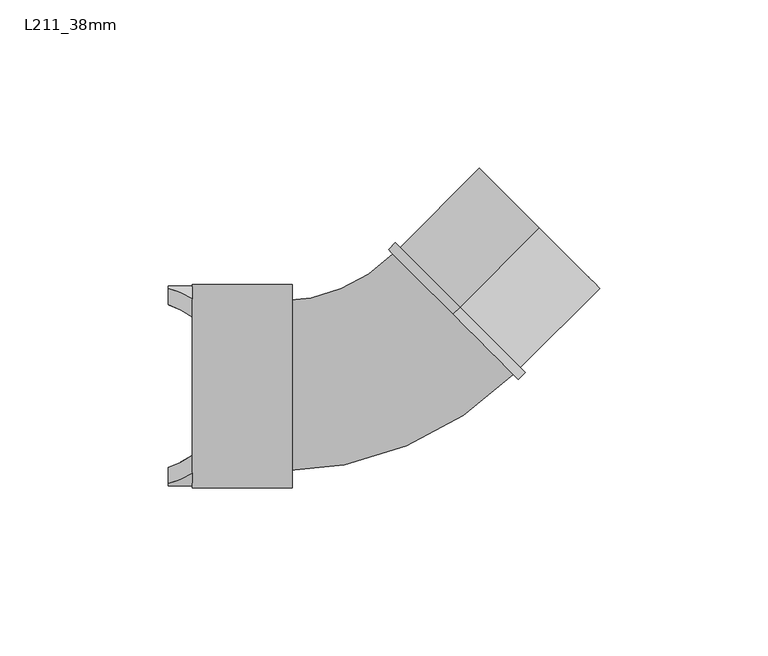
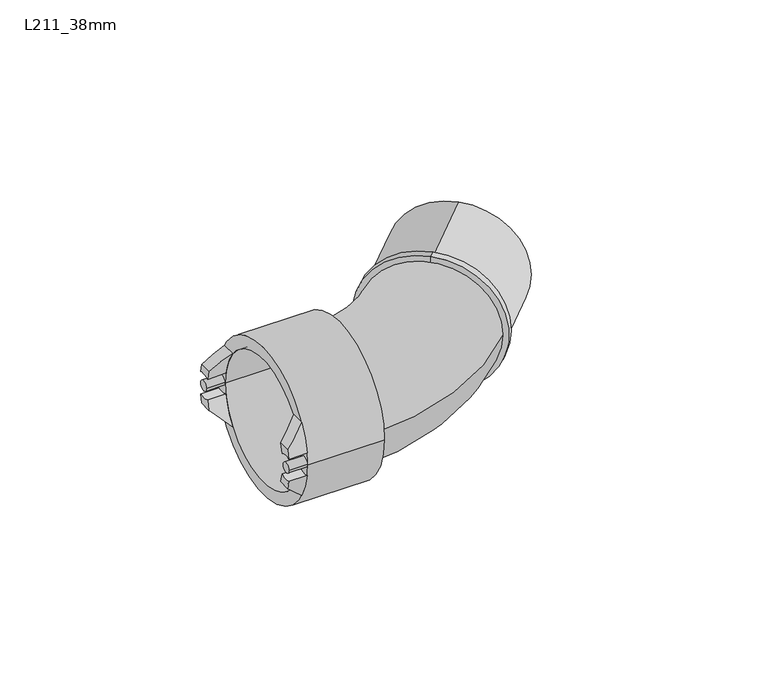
"""IFC4 building model written with IfcOpenShell, lengths in millimetres: pipe fitting geometry, Durapipe_PipeFitting_VulcatheneEnfusion_SingleSocketSlowBend_L21 : L211_38mm."""

import ifcopenshell
import ifcopenshell.guid

model = None  # the IFC model being written
_history = None  # IfcOwnerHistory: only IFC2X3 demands one
_inside = {}  # id of a spatial element -> (the spatial element, [elements in it])
_under = {}  # id of a project, library or spatial element -> (it, [spatial elements below it])
_declared = {}  # id of a project -> (the project, [libraries it declares])
_typed = {}  # id of a type object -> (the type object, [elements of that type])
_made_of = {}  # id of a material, layer set ... -> (it, [elements and type objects made of it])


def new_model(schema):
    """Start an empty IFC model of exactly this schema.

    Asked for "IFC4X3", IfcOpenShell would pick the latest addendum, in which some entities
    have other attributes; the version numbers below select the first issue.
    IFC2X3 requires an IfcOwnerHistory on every rooted entity: one is made here for all.
    """
    global model, _history
    if schema == "IFC4X3":
        model = ifcopenshell.file(schema_version=(4, 3, 0, 0))
    else:
        model = ifcopenshell.file(schema=schema)
    _inside.clear()
    _under.clear()
    _declared.clear()
    _typed.clear()
    _made_of.clear()
    _history = None
    if model.schema == "IFC2X3":
        org = make("IfcOrganization", Name="unknown")
        user = make(
            "IfcPersonAndOrganization",
            ThePerson=make("IfcPerson", FamilyName="unknown"),
            TheOrganization=org,
        )
        app = make(
            "IfcApplication",
            ApplicationDeveloper=org,
            Version="unknown",
            ApplicationFullName="unknown",
            ApplicationIdentifier="unknown",
        )
        _history = make(
            "IfcOwnerHistory",
            OwningUser=user,
            OwningApplication=app,
            ChangeAction="ADDED",
            CreationDate=0,
        )
    return model


def make(cls, **values):
    """One entity of the class cls with the attributes given. An attribute that is None is left unset."""
    return model.create_entity(
        cls, **{name: value for name, value in values.items() if value is not None}
    )


def rooted(cls, **values):
    """An entity with a GlobalId (a new one), such as an element, a storey or a relation."""
    return make(cls, GlobalId=ifcopenshell.guid.new(), OwnerHistory=_history, **values)


def si_unit(unit_type, name, prefix=None):
    """IfcSIUnit, for example si_unit("LENGTHUNIT", "METRE", prefix="MILLI")."""
    return make("IfcSIUnit", UnitType=unit_type, Prefix=prefix, Name=name)


def assignment(units):
    """IfcUnitAssignment: the units of a project."""
    return None if units is None else make("IfcUnitAssignment", Units=units)


def point(xyz):
    """IfcCartesianPoint."""
    return None if xyz is None else make("IfcCartesianPoint", Coordinates=xyz)


def direction(xyz):
    """IfcDirection."""
    return None if xyz is None else make("IfcDirection", DirectionRatios=xyz)


def frame(location, z_axis=None, x_axis=None):
    """IfcAxis2Placement3D, a coordinate frame: its origin and axes. An axis left out is left unset."""
    return make(
        "IfcAxis2Placement3D",
        Location=point(location),
        Axis=direction(z_axis),
        RefDirection=direction(x_axis),
    )


def frame_2d(location, x_axis=None):
    """IfcAxis2Placement2D, a coordinate frame in the plane: its origin and x axis."""
    return make(
        "IfcAxis2Placement2D", Location=point(location), RefDirection=direction(x_axis)
    )


def origin():
    """The frame at (0, 0, 0) with its axes left unset."""
    return frame((0.0, 0.0, 0.0))


def place(relative_to, where):
    """IfcLocalPlacement: puts the frame where relative to a parent placement (None: the world)."""
    return make(
        "IfcLocalPlacement", PlacementRelTo=relative_to, RelativePlacement=where
    )


def context(
    kind, dimensions, precision=None, world=None, true_north=None, identifier=None
):
    """IfcGeometricRepresentationContext, for example the 3D "Model" context."""
    return make(
        "IfcGeometricRepresentationContext",
        ContextIdentifier=identifier,
        ContextType=kind,
        CoordinateSpaceDimension=dimensions,
        Precision=precision,
        WorldCoordinateSystem=world,
        TrueNorth=true_north,
    )


def project(units=None, contexts=None):
    """IfcProject with its units and contexts."""
    return rooted(
        "IfcProject",
        Name="project",
        RepresentationContexts=contexts,
        UnitsInContext=assignment(units),
    )


def spatial(cls, under=None, at=None, **own):
    """A site, building, storey or space (cls), placed at a placement, below another one or the project."""
    s = rooted(cls, ObjectPlacement=at, **own)
    if under is not None:
        _under.setdefault(under.id(), (under, []))[1].append(s)
    return s


def polyline(points):
    """IfcPolyline through the points."""
    return make("IfcPolyline", Points=[point(p) for p in points])


def circle_curve(where, radius):
    """IfcCircle in the frame where."""
    return make("IfcCircle", Position=where, Radius=radius)


def ellipse_curve(where, semi_axis1, semi_axis2):
    """IfcEllipse in the frame where."""
    return make(
        "IfcEllipse", Position=where, SemiAxis1=semi_axis1, SemiAxis2=semi_axis2
    )


def trimmed(basis, trim1, trim2, sense, master):
    """IfcTrimmedCurve: the piece of a basis curve between two trims."""
    return make(
        "IfcTrimmedCurve",
        BasisCurve=basis,
        Trim1=trim1,
        Trim2=trim2,
        SenseAgreement=sense,
        MasterRepresentation=master,
    )


def segment(curve, same_sense, transition):
    """IfcCompositeCurveSegment."""
    return make(
        "IfcCompositeCurveSegment",
        Transition=transition,
        SameSense=same_sense,
        ParentCurve=curve,
    )


def composite_curve(segments, self_intersect=None):
    """IfcCompositeCurve: segments joined end to end."""
    return make("IfcCompositeCurve", Segments=segments, SelfIntersect=self_intersect)


def outline(outer, holes=None, kind="AREA"):
    """IfcArbitraryClosedProfileDef: a profile drawn as a closed curve; with holes, ...WithVoids."""
    if holes is None:
        return make("IfcArbitraryClosedProfileDef", ProfileType=kind, OuterCurve=outer)
    return make(
        "IfcArbitraryProfileDefWithVoids",
        ProfileType=kind,
        OuterCurve=outer,
        InnerCurves=holes,
    )


def extrude(swept, where, along, depth):
    """IfcExtrudedAreaSolid: the profile swept, set in the frame where, extruded along a direction by depth."""
    return make(
        "IfcExtrudedAreaSolid",
        SweptArea=swept,
        Position=where,
        ExtrudedDirection=direction(along),
        Depth=depth,
    )


def shape(context_of_items, identifier, shape_type, items):
    """IfcShapeRepresentation: the items that make up one representation, for example the "Body"."""
    return make(
        "IfcShapeRepresentation",
        ContextOfItems=context_of_items,
        RepresentationIdentifier=identifier,
        RepresentationType=shape_type,
        Items=items,
    )


def source(mapping_origin, context_of_items, identifier, shape_type, items):
    """IfcRepresentationMap: a shape defined once, which mapped items show again and again."""
    return make(
        "IfcRepresentationMap",
        MappingOrigin=mapping_origin,
        MappedRepresentation=shape(context_of_items, identifier, shape_type, items),
    )


def transform(
    local_origin,
    x_axis=None,
    y_axis=None,
    z_axis=None,
    scale=None,
    scale2=None,
    scale3=None,
    uniform=True,
):
    """IfcCartesianTransformationOperator3D, or its non-uniform kind. x_axis, y_axis, z_axis: its Axis1, 2, 3."""
    if uniform:
        return make(
            "IfcCartesianTransformationOperator3D",
            Axis1=direction(x_axis),
            Axis2=direction(y_axis),
            LocalOrigin=point(local_origin),
            Scale=scale,
            Axis3=direction(z_axis),
        )
    return make(
        "IfcCartesianTransformationOperator3DnonUniform",
        Axis1=direction(x_axis),
        Axis2=direction(y_axis),
        LocalOrigin=point(local_origin),
        Scale=scale,
        Axis3=direction(z_axis),
        Scale2=scale2,
        Scale3=scale3,
    )


def mapped(mapping_source, mapping_target):
    """IfcMappedItem: shows the shape of a source again, moved by a transform."""
    return make(
        "IfcMappedItem", MappingSource=mapping_source, MappingTarget=mapping_target
    )


def made_of(thing, what):
    """Note that an element or type object is made of a material, layer set ...; save() writes the relation."""
    if what is not None:
        _made_of.setdefault(what.id(), (what, []))[1].append(thing)
    return thing


def element(
    cls,
    number,
    at=None,
    inside=None,
    cuts=None,
    type_object=None,
    material=None,
    context=None,
    identifier="Body",
    shape_type=None,
    held_by="IfcProductDefinitionShape",
    body=None,
    shapes=None,
    **own,
):
    """One element of the class cls, such as IfcWall. Its Tag is "e" and its number.

    at: its placement. inside: the storey or other place that contains it. cuts: it is an
    opening in that element (IfcRelVoidsElement). A single representation is given by context,
    identifier, shape_type and body (its items); several are given by shapes. held_by: the class
    of the entity that holds the representations. save() writes the other relations.
    """
    e = rooted(cls, Tag="e%d" % number, ObjectPlacement=at, **own)
    if body is not None:
        shapes = [shape(context, identifier, shape_type, body)]
    if shapes is not None:
        e.Representation = make(held_by, Representations=shapes)
    if inside is not None:
        _inside.setdefault(inside.id(), (inside, []))[1].append(e)
    if cuts is not None:
        rooted(
            "IfcRelVoidsElement", RelatingBuildingElement=cuts, RelatedOpeningElement=e
        )
    if type_object is not None:
        _typed.setdefault(type_object.id(), (type_object, []))[1].append(e)
    return made_of(e, material)


def aggregate(whole, parts):
    """IfcRelAggregates: a whole, such as a stair, and the parts it consists of."""
    return rooted("IfcRelAggregates", RelatingObject=whole, RelatedObjects=parts)


def save(model, path):
    """Write the relations noted so far, then the file.

    IfcRelAggregates (storeys below a building ...), IfcRelContainedInSpatialStructure (elements
    in a storey), IfcRelDefinesByType, IfcRelAssociatesMaterial and IfcRelDeclares: one each for
    every whole, place, type object, material and project.
    """
    for whole, parts in _under.values():
        aggregate(whole, parts)
    for where, things in _inside.values():
        rooted(
            "IfcRelContainedInSpatialStructure",
            RelatedElements=things,
            RelatingStructure=where,
        )
    for kind, things in _typed.values():
        rooted("IfcRelDefinesByType", RelatedObjects=things, RelatingType=kind)
    for what, things in _made_of.values():
        rooted("IfcRelAssociatesMaterial", RelatedObjects=things, RelatingMaterial=what)
    for by, libraries in _declared.values():
        rooted("IfcRelDeclares", RelatingContext=by, RelatedDefinitions=libraries)
    model.write(path)


def plane_surface(at):
    """IfcPlane: the flat surface through the origin of the frame at, square to its z axis."""
    return make("IfcPlane", Position=at)


def cylinder_surface(at, radius):
    """IfcCylindricalSurface: all points at the distance radius from the z axis of the frame at."""
    return make("IfcCylindricalSurface", Position=at, Radius=radius)


def revolved_surface(curve, axis_point, axis_direction):
    """IfcSurfaceOfRevolution: the curve turned about the line through axis_point along axis_direction."""
    return make(
        "IfcSurfaceOfRevolution",
        SweptCurve=make("IfcArbitraryOpenProfileDef", ProfileType="CURVE", Curve=curve),
        AxisPosition=make("IfcAxis1Placement", Location=point(axis_point), Axis=direction(axis_direction)),
    )


def advanced_brep(points, edges, surfaces, faces):
    """IfcAdvancedBrep: a solid bounded by faces that lie on surfaces and meet in shared edges.

    An edge is (start, end): straight between two places in points (the first is 0);
    or (start, end, curve); or (start, end, curve, False) where it runs against its curve.
    A face is (place in surfaces, loops), or (place, loops, False) where it looks against
    its surface's normal. A loop lists edges by number (the first is 1), with a minus sign
    where the edge is run from its end to its start. The first loop is the outer one.
    """
    corners = [point(p) for p in points]
    vertices = [make("IfcVertexPoint", VertexGeometry=c) for c in corners]
    made = []
    for start, end, *more in edges:
        made.append(
            make(
                "IfcEdgeCurve",
                EdgeStart=vertices[start],
                EdgeEnd=vertices[end],
                EdgeGeometry=more[0] if more else make("IfcPolyline", Points=[corners[start], corners[end]]),
                SameSense=more[1] if len(more) > 1 else True,
            )
        )
    hull = []
    for where, loops, *sense in faces:
        bounds = []
        for j, loop in enumerate(loops):
            ring = [make("IfcOrientedEdge", EdgeElement=made[abs(k) - 1], Orientation=k > 0) for k in loop]
            bounds.append(
                make(
                    "IfcFaceOuterBound" if j == 0 else "IfcFaceBound",
                    Bound=make("IfcEdgeLoop", EdgeList=ring),
                    Orientation=True,
                )
            )
        hull.append(make("IfcAdvancedFace", Bounds=bounds, FaceSurface=surfaces[where], SameSense=sense[0] if sense else True))
    return make("IfcAdvancedBrep", Outer=make("IfcClosedShell", CfsFaces=hull))


def l211_38mm_e0d01717(model_context):
    return source(origin(), model_context, "Body", "SolidModel", [
        advanced_brep(
        [(-63.2547473, 25.0948649, -4.2367744), (-63.2547473, 29.6948649, -4.6062458), (-63.2547473, 28.9820444, -7.94), (-63.2547473, 24.1797208, -7.94), (-56.1547473, 26.0384811, -15.0), (-56.1547473, 29.6948649, -4.6062458), (-56.1547473, 25.0948649, -4.2367744), (-56.1547473, 20.5597301, -15.0)],
        [
            (0, 1, circle_curve(frame((-63.2547473, 27.75, 0.0), z_axis=(1.0, 0.0, 0.0), x_axis=(0.0, -1.0, 0.0)), 5.0)),
            (1, 2, circle_curve(frame((-63.2547473, 0.0, 0.0), z_axis=(-1.0, 0.0, 0.0), x_axis=(0.0, -1.0, 0.0)), 30.05)),
            (2, 3),
            (3, 0, circle_curve(frame((-63.2547473, 0.0, 0.0), z_axis=(1.0, 0.0, 0.0), x_axis=(0.0, -1.0, 0.0)), 25.45)),
            (4, 5, circle_curve(frame((-56.1547473, 0.0, 0.0), z_axis=(1.0, 0.0, 0.0), x_axis=(0.0, -1.0, 0.0)), 30.05)),
            (5, 6, circle_curve(frame((-56.1547473, 27.75, 0.0), z_axis=(-1.0, 0.0, 0.0), x_axis=(0.0, -1.0, 0.0)), 5.0)),
            (6, 7, circle_curve(frame((-56.1547473, 0.0, 0.0), z_axis=(-1.0, 0.0, 0.0), x_axis=(0.0, -1.0, 0.0)), 25.45)),
            (7, 4),
            (6, 0),
            (3, 7, ellipse_curve(frame((-71.2397332, 0.0, 0.0), z_axis=(-0.705106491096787, 0.0, -0.7091014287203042), x_axis=(0.7091014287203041, 0.0, -0.705106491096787)), 36.0938388, 25.45)),
            (4, 2, ellipse_curve(frame((-71.2397332, 0.0, 0.0), z_axis=(0.705106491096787, 0.0, 0.7091014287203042), x_axis=(-0.7091014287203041, 0.0, 0.705106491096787)), 42.617676, 30.05)),
            (1, 5),
        ],
        [
            plane_surface(frame((-63.2547473, 26.0384811, -15.0), z_axis=(-1.0, 0.0, 0.0), x_axis=(0.0, -1.0, 0.0))),
            plane_surface(frame((-56.1547473, 26.0384811, -15.0), z_axis=(1.0, 0.0, 0.0), x_axis=(0.0, 1.0, 0.0))),
            revolved_surface(polyline([(-45.645540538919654, -25.45, 0.0), (-96.83392586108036, -25.45, 0.0)]), (-56.1547473, 0.0, 0.0), (1.0, 0.0, 0.0)),
            cylinder_surface(frame((-56.1547473, 0.0, 0.0), z_axis=(-1.0, 0.0, 0.0), x_axis=(0.0, -1.0, 0.0)), 30.05),
            revolved_surface(polyline([(-63.2547473, 22.75, 0.0), (-56.1547473, 22.75, 0.0)]), (-56.1547473, 27.75, 0.0), (-1.0, 0.0, 0.0)),
            plane_surface(frame((-56.1547473, -30.05, -15.0), z_axis=(-0.705106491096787, 0.0, -0.7091014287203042), x_axis=(0.0, 1.0, 0.0))),
        ],
        [
            (0, [[1, 2, 3, 4]]),
            (1, [[5, 6, 7, 8]]),
            (2, [[-7, 9, -4, 10]]),
            (3, [[-5, 11, -2, 12]]),
            (4, [[-1, -9, -6, -12]]),
            (5, [[-3, -11, -8, -10]]),
        ],
    ),
        advanced_brep(
        [(-63.2547473, 29.6948649, 4.6062458), (-63.2547473, 25.0948649, 4.2367744), (-63.2547473, 24.1797208, 7.94), (-63.2547473, 28.9820444, 7.94), (-56.1547473, 29.6948649, 4.6062458), (-56.1547473, 26.0384811, 15.0), (-56.1547473, 20.5597301, 15.0), (-56.1547473, 25.0948649, 4.2367744)],
        [
            (0, 1, circle_curve(frame((-63.2547473, 27.75, 0.0), z_axis=(1.0, 0.0, 0.0), x_axis=(0.0, -1.0, 0.0)), 5.0)),
            (1, 2, circle_curve(frame((-63.2547473, 0.0, 0.0), z_axis=(1.0, 0.0, 0.0), x_axis=(0.0, -1.0, 0.0)), 25.45)),
            (2, 3),
            (3, 0, circle_curve(frame((-63.2547473, 0.0, 0.0), z_axis=(-1.0, 0.0, 0.0), x_axis=(0.0, -1.0, 0.0)), 30.05)),
            (4, 5, circle_curve(frame((-56.1547473, 0.0, 0.0), z_axis=(1.0, 0.0, 0.0), x_axis=(0.0, -1.0, 0.0)), 30.05)),
            (5, 6),
            (6, 7, circle_curve(frame((-56.1547473, 0.0, 0.0), z_axis=(-1.0, 0.0, 0.0), x_axis=(0.0, -1.0, 0.0)), 25.45)),
            (7, 4, circle_curve(frame((-56.1547473, 27.75, 0.0), z_axis=(-1.0, 0.0, 0.0), x_axis=(0.0, -1.0, 0.0)), 5.0)),
            (6, 2, ellipse_curve(frame((-71.2397332, 0.0, 0.0), z_axis=(-0.7051064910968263, 0.0, 0.7091014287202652), x_axis=(0.7091014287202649, 0.0, 0.7051064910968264)), 36.0938388, 25.45)),
            (1, 7),
            (4, 0),
            (3, 5, ellipse_curve(frame((-71.2397332, 0.0, 0.0), z_axis=(0.7051064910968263, 0.0, -0.7091014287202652), x_axis=(-0.7091014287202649, 0.0, -0.7051064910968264)), 42.617676, 30.05)),
        ],
        [
            plane_surface(frame((-63.2547473, 26.0384811, -15.0), z_axis=(-1.0, 0.0, 0.0), x_axis=(0.0, -1.0, 0.0))),
            plane_surface(frame((-56.1547473, 26.0384811, -15.0), z_axis=(1.0, 0.0, 0.0), x_axis=(0.0, 1.0, 0.0))),
            revolved_surface(polyline([(-45.64554053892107, -25.45, 0.0), (-96.83392586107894, -25.45, 0.0)]), (-56.1547473, 0.0, 0.0), (1.0, 0.0, 0.0)),
            cylinder_surface(frame((-56.1547473, 0.0, 0.0), z_axis=(-1.0, 0.0, 0.0), x_axis=(0.0, -1.0, 0.0)), 30.05),
            revolved_surface(polyline([(-63.2547473, 22.75, 0.0), (-56.1547473, 22.75, 0.0)]), (-56.1547473, 27.75, 0.0), (-1.0, 0.0, 0.0)),
            plane_surface(frame((-63.2547473, -30.05, 7.94), z_axis=(-0.7051064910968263, 0.0, 0.7091014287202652), x_axis=(0.0, 1.0, 0.0))),
        ],
        [
            (0, [[1, 2, 3, 4]]),
            (1, [[5, 6, 7, 8]]),
            (2, [[-7, 9, -2, 10]]),
            (3, [[-5, 11, -4, 12]]),
            (4, [[-1, -11, -8, -10]]),
            (5, [[-3, -9, -6, -12]]),
        ],
    ),
        advanced_brep(
        [(-63.2547473, -29.6948649, -4.6062458), (-63.2547473, -25.0948649, -4.2367744), (-63.2547473, -24.1797208, -7.94), (-63.2547473, -28.9820444, -7.94), (-56.1547473, -29.6948649, -4.6062458), (-56.1547473, -26.0384811, -15.0), (-56.1547473, -20.5597301, -15.0), (-56.1547473, -25.0948649, -4.2367744)],
        [
            (0, 1, circle_curve(frame((-63.2547473, -27.75, 0.0), z_axis=(1.0, 0.0, 0.0), x_axis=(0.0, -1.0, 0.0)), 5.0)),
            (1, 2, circle_curve(frame((-63.2547473, 0.0, 0.0), z_axis=(1.0, 0.0, 0.0), x_axis=(0.0, -1.0, 0.0)), 25.45)),
            (2, 3),
            (3, 0, circle_curve(frame((-63.2547473, 0.0, 0.0), z_axis=(-1.0, 0.0, 0.0), x_axis=(0.0, -1.0, 0.0)), 30.05)),
            (4, 5, circle_curve(frame((-56.1547473, 0.0, 0.0), z_axis=(1.0, 0.0, 0.0), x_axis=(0.0, -1.0, 0.0)), 30.05)),
            (5, 6),
            (6, 7, circle_curve(frame((-56.1547473, 0.0, 0.0), z_axis=(-1.0, 0.0, 0.0), x_axis=(0.0, -1.0, 0.0)), 25.45)),
            (7, 4, circle_curve(frame((-56.1547473, -27.75, 0.0), z_axis=(-1.0, 0.0, 0.0), x_axis=(0.0, -1.0, 0.0)), 5.0)),
            (6, 2, ellipse_curve(frame((-71.2397332, 0.0, 0.0), z_axis=(-0.705106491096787, 0.0, -0.7091014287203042), x_axis=(0.7091014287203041, 0.0, -0.705106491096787)), 36.0938388, 25.45)),
            (1, 7),
            (4, 0),
            (3, 5, ellipse_curve(frame((-71.2397332, 0.0, 0.0), z_axis=(0.705106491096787, 0.0, 0.7091014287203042), x_axis=(-0.7091014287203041, 0.0, 0.705106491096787)), 42.617676, 30.05)),
        ],
        [
            plane_surface(frame((-63.2547473, 26.0384811, -15.0), z_axis=(-1.0, 0.0, 0.0), x_axis=(0.0, -1.0, 0.0))),
            plane_surface(frame((-56.1547473, 26.0384811, -15.0), z_axis=(1.0, 0.0, 0.0), x_axis=(0.0, 1.0, 0.0))),
            revolved_surface(polyline([(-45.645540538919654, -25.45, 0.0), (-96.83392586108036, -25.45, 0.0)]), (-56.1547473, 0.0, 0.0), (1.0, 0.0, 0.0)),
            cylinder_surface(frame((-56.1547473, 0.0, 0.0), z_axis=(-1.0, 0.0, 0.0), x_axis=(0.0, -1.0, 0.0)), 30.05),
            revolved_surface(polyline([(-63.2547473, -32.75, 0.0), (-56.1547473, -32.75, 0.0)]), (-56.1547473, -27.75, 0.0), (-1.0, 0.0, 0.0)),
            plane_surface(frame((-56.1547473, -30.05, -15.0), z_axis=(-0.705106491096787, 0.0, -0.7091014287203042), x_axis=(0.0, 1.0, 0.0))),
        ],
        [
            (0, [[1, 2, 3, 4]]),
            (1, [[5, 6, 7, 8]]),
            (2, [[-7, 9, -2, 10]]),
            (3, [[-5, 11, -4, 12]]),
            (4, [[-1, -11, -8, -10]]),
            (5, [[-3, -9, -6, -12]]),
        ],
    ),
        advanced_brep(
        [(-63.2547473, -25.0948649, 4.2367744), (-63.2547473, -29.6948649, 4.6062458), (-63.2547473, -28.9820444, 7.94), (-63.2547473, -24.1797208, 7.94), (-56.1547473, -26.0384811, 15.0), (-56.1547473, -29.6948649, 4.6062458), (-56.1547473, -25.0948649, 4.2367744), (-56.1547473, -20.5597301, 15.0)],
        [
            (0, 1, circle_curve(frame((-63.2547473, -27.75, 0.0), z_axis=(1.0, 0.0, 0.0), x_axis=(0.0, -1.0, 0.0)), 5.0)),
            (1, 2, circle_curve(frame((-63.2547473, 0.0, 0.0), z_axis=(-1.0, 0.0, 0.0), x_axis=(0.0, -1.0, 0.0)), 30.05)),
            (2, 3),
            (3, 0, circle_curve(frame((-63.2547473, 0.0, 0.0), z_axis=(1.0, 0.0, 0.0), x_axis=(0.0, -1.0, 0.0)), 25.45)),
            (4, 5, circle_curve(frame((-56.1547473, 0.0, 0.0), z_axis=(1.0, 0.0, 0.0), x_axis=(0.0, -1.0, 0.0)), 30.05)),
            (5, 6, circle_curve(frame((-56.1547473, -27.75, 0.0), z_axis=(-1.0, 0.0, 0.0), x_axis=(0.0, -1.0, 0.0)), 5.0)),
            (6, 7, circle_curve(frame((-56.1547473, 0.0, 0.0), z_axis=(-1.0, 0.0, 0.0), x_axis=(0.0, -1.0, 0.0)), 25.45)),
            (7, 4),
            (6, 0),
            (3, 7, ellipse_curve(frame((-71.2397332, 0.0, 0.0), z_axis=(-0.7051064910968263, 0.0, 0.7091014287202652), x_axis=(0.7091014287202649, 0.0, 0.7051064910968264)), 36.0938388, 25.45)),
            (4, 2, ellipse_curve(frame((-71.2397332, 0.0, 0.0), z_axis=(0.7051064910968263, 0.0, -0.7091014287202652), x_axis=(-0.7091014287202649, 0.0, -0.7051064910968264)), 42.617676, 30.05)),
            (1, 5),
        ],
        [
            plane_surface(frame((-63.2547473, 26.0384811, -15.0), z_axis=(-1.0, 0.0, 0.0), x_axis=(0.0, -1.0, 0.0))),
            plane_surface(frame((-56.1547473, 26.0384811, -15.0), z_axis=(1.0, 0.0, 0.0), x_axis=(0.0, 1.0, 0.0))),
            revolved_surface(polyline([(-45.64554053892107, -25.45, 0.0), (-96.83392586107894, -25.45, 0.0)]), (-56.1547473, 0.0, 0.0), (1.0, 0.0, 0.0)),
            cylinder_surface(frame((-56.1547473, 0.0, 0.0), z_axis=(-1.0, 0.0, 0.0), x_axis=(0.0, -1.0, 0.0)), 30.05),
            revolved_surface(polyline([(-63.2547473, -32.75, 0.0), (-56.1547473, -32.75, 0.0)]), (-56.1547473, -27.75, 0.0), (-1.0, 0.0, 0.0)),
            plane_surface(frame((-63.2547473, -30.05, 7.94), z_axis=(-0.7051064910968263, 0.0, 0.7091014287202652), x_axis=(0.0, 1.0, 0.0))),
        ],
        [
            (0, [[1, 2, 3, 4]]),
            (1, [[5, 6, 7, 8]]),
            (2, [[-7, 9, -4, 10]]),
            (3, [[-5, 11, -2, 12]]),
            (4, [[-1, -9, -6, -12]]),
            (5, [[-3, -11, -8, -10]]),
        ],
    ),
        extrude(outline(composite_curve([segment(trimmed(circle_curve(frame_2d((27.75, 0.0)), 2.0), [point((29.75, 0.0))], [point((25.75, 0.0))], False, "CARTESIAN"), True, "CONTINUOUS"), segment(trimmed(circle_curve(frame_2d((27.75, 0.0)), 2.0), [point((25.75, 0.0))], [point((29.75, 0.0))], False, "CARTESIAN"), True, "CONTINUOUS")], self_intersect=False)), frame((-63.2547473, 0.0, 0.0), z_axis=(1.0, 0.0, 0.0), x_axis=(0.0, 1.0, 0.0)), (0.0, 0.0, 1.0), 7.1),
        extrude(outline(composite_curve([segment(trimmed(circle_curve(frame_2d((-27.75, 0.0)), 2.0), [point((-25.75, 0.0))], [point((-29.75, 0.0))], False, "CARTESIAN"), True, "CONTINUOUS"), segment(trimmed(circle_curve(frame_2d((-27.75, 0.0)), 2.0), [point((-29.75, 0.0))], [point((-25.75, 0.0))], False, "CARTESIAN"), True, "CONTINUOUS")], self_intersect=False)), frame((-63.2547473, 0.0, 0.0), z_axis=(1.0, 0.0, 0.0), x_axis=(0.0, 1.0, 0.0)), (0.0, 0.0, 1.0), 7.1),
        advanced_brep(
        [(-30.1547473, 20.65, 0.0), (-30.1547473, -20.65, 0.0), (-30.1547473, -25.3, 0.0), (-30.1547473, 25.3, 0.0), (-26.4547473, 20.65, 0.0), (-26.4547473, -20.65, 0.0), (-26.4547473, 30.2, 0.0), (-26.4547473, -30.2, 0.0), (-56.1547473, 30.2, 0.0), (-56.1547473, -30.2, 0.0), (-56.1547473, 25.3, 0.0), (-56.1547473, -25.3, 0.0)],
        [
            (0, 1, circle_curve(frame((-30.1547473, 0.0, 0.0), z_axis=(1.0, 0.0, 0.0), x_axis=(0.0, -1.0, 0.0)), 20.65)),
            (1, 2),
            (2, 3, circle_curve(frame((-30.1547473, 0.0, 0.0), z_axis=(-1.0, 0.0, 0.0), x_axis=(0.0, -1.0, 0.0)), 25.3)),
            (3, 0),
            (1, 0, circle_curve(frame((-30.1547473, 0.0, 0.0), z_axis=(1.0, 0.0, 0.0), x_axis=(0.0, -1.0, 0.0)), 20.65)),
            (3, 2, circle_curve(frame((-30.1547473, 0.0, 0.0), z_axis=(-1.0, 0.0, 0.0), x_axis=(0.0, -1.0, 0.0)), 25.3)),
            (4, 5, circle_curve(frame((-26.4547473, 0.0, 0.0), z_axis=(1.0, 0.0, 0.0), x_axis=(0.0, -1.0, 0.0)), 20.65)),
            (5, 1),
            (0, 4),
            (5, 4, circle_curve(frame((-26.4547473, 0.0, 0.0), z_axis=(1.0, 0.0, 0.0), x_axis=(0.0, -1.0, 0.0)), 20.65)),
            (6, 7, circle_curve(frame((-26.4547473, 0.0, 0.0), z_axis=(1.0, 0.0, 0.0), x_axis=(0.0, -1.0, 0.0)), 30.2)),
            (7, 5),
            (4, 6),
            (7, 6, circle_curve(frame((-26.4547473, 0.0, 0.0), z_axis=(1.0, 0.0, 0.0), x_axis=(0.0, -1.0, 0.0)), 30.2)),
            (8, 9, circle_curve(frame((-56.1547473, 0.0, 0.0), z_axis=(1.0, 0.0, 0.0), x_axis=(0.0, -1.0, 0.0)), 30.2)),
            (9, 7),
            (6, 8),
            (9, 8, circle_curve(frame((-56.1547473, 0.0, 0.0), z_axis=(1.0, 0.0, 0.0), x_axis=(0.0, -1.0, 0.0)), 30.2)),
            (10, 11, circle_curve(frame((-56.1547473, 0.0, 0.0), z_axis=(1.0, 0.0, 0.0), x_axis=(0.0, -1.0, 0.0)), 25.3)),
            (11, 9),
            (8, 10),
            (11, 10, circle_curve(frame((-56.1547473, 0.0, 0.0), z_axis=(1.0, 0.0, 0.0), x_axis=(0.0, -1.0, 0.0)), 25.3)),
            (2, 11),
            (10, 3),
        ],
        [
            plane_surface(frame((-30.1547473, 0.0, 0.0), z_axis=(-1.0, 0.0, 0.0), x_axis=(0.0, -1.0, 0.0))),
            revolved_surface(polyline([(-30.154747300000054, -20.65, 0.0), (-26.45474729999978, -20.65, 0.0)]), (-2570.1373714, 0.0, 0.0), (-1.0, 0.0, 0.0)),
            plane_surface(frame((-26.4547473, 0.0, 0.0), z_axis=(1.0, 0.0, 0.0), x_axis=(0.0, -1.0, 0.0))),
            cylinder_surface(frame((-2570.1373714, 0.0, 0.0), z_axis=(-1.0, 0.0, 0.0), x_axis=(0.0, -1.0, 0.0)), 30.2),
            plane_surface(frame((-56.1547473, 0.0, 0.0), z_axis=(-1.0, 0.0, 0.0), x_axis=(0.0, -1.0, 0.0))),
            revolved_surface(polyline([(-56.154747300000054, -25.3, 0.0), (-30.154747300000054, -25.3, 0.0)]), (-2570.1373714, 0.0, 0.0), (-1.0, 0.0, 0.0)),
        ],
        [
            (0, [[1, 2, 3, 4]]),
            (0, [[5, -4, 6, -2]]),
            (1, [[7, 8, -1, 9]]),
            (1, [[10, -9, -5, -8]]),
            (2, [[11, 12, -7, 13]]),
            (2, [[14, -13, -10, -12]]),
            (3, [[15, 16, -11, 17]]),
            (3, [[18, -17, -14, -16]]),
            (4, [[19, 20, -15, 21]]),
            (4, [[22, -21, -18, -20]]),
            (5, [[-3, 23, -19, 24]]),
            (5, [[-6, -24, -22, -23]]),
        ],
    ),
        advanced_brep(
        [(21.3226263, 21.3226263, -27.3), (21.3226263, 21.3226263, 27.3), (21.3226263, 21.3226263, 20.65), (21.3226263, 21.3226263, -20.65), (23.373236, 23.373236, -27.3), (23.373236, 23.373236, 27.3), (23.373236, 23.373236, -25.3), (23.373236, 23.373236, 25.3), (46.9198918, 46.9198918, -25.3), (46.9198918, 46.9198918, 25.3), (46.9198918, 46.9198918, -20.65), (46.9198918, 46.9198918, 20.65)],
        [
            (0, 1, circle_curve(frame((21.3226263, 21.3226263, 0.0), z_axis=(-0.7071067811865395, -0.7071067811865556, 0.0), x_axis=(0.0, 0.0, 1.0)), 27.3)),
            (1, 2),
            (2, 3, circle_curve(frame((21.3226263, 21.3226263, 0.0), z_axis=(0.7071067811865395, 0.7071067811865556, 0.0), x_axis=(0.0, 0.0, 1.0)), 20.65)),
            (3, 0),
            (1, 0, circle_curve(frame((21.3226263, 21.3226263, 0.0), z_axis=(-0.7071067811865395, -0.7071067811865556, 0.0), x_axis=(0.0, 0.0, 1.0)), 27.3)),
            (3, 2, circle_curve(frame((21.3226263, 21.3226263, 0.0), z_axis=(0.7071067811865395, 0.7071067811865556, 0.0), x_axis=(0.0, 0.0, 1.0)), 20.65)),
            (4, 5, circle_curve(frame((23.373236, 23.373236, 0.0), z_axis=(-0.7071067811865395, -0.7071067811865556, 0.0), x_axis=(0.0, 0.0, 1.0)), 27.3)),
            (5, 1),
            (0, 4),
            (5, 4, circle_curve(frame((23.373236, 23.373236, 0.0), z_axis=(-0.7071067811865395, -0.7071067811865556, 0.0), x_axis=(0.0, 0.0, 1.0)), 27.3)),
            (6, 7, circle_curve(frame((23.373236, 23.373236, 0.0), z_axis=(-0.7071067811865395, -0.7071067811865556, 0.0), x_axis=(0.0, 0.0, 1.0)), 25.3)),
            (7, 5),
            (4, 6),
            (7, 6, circle_curve(frame((23.373236, 23.373236, 0.0), z_axis=(-0.7071067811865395, -0.7071067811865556, 0.0), x_axis=(0.0, 0.0, 1.0)), 25.3)),
            (8, 9, circle_curve(frame((46.9198918, 46.9198918, 0.0), z_axis=(-0.7071067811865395, -0.7071067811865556, 0.0), x_axis=(0.0, 0.0, 1.0)), 25.3)),
            (9, 7),
            (6, 8),
            (9, 8, circle_curve(frame((46.9198918, 46.9198918, 0.0), z_axis=(-0.7071067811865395, -0.7071067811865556, 0.0), x_axis=(0.0, 0.0, 1.0)), 25.3)),
            (10, 11, circle_curve(frame((46.9198918, 46.9198918, 0.0), z_axis=(-0.7071067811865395, -0.7071067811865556, 0.0), x_axis=(0.0, 0.0, 1.0)), 20.65)),
            (11, 9),
            (8, 10),
            (11, 10, circle_curve(frame((46.9198918, 46.9198918, 0.0), z_axis=(-0.7071067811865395, -0.7071067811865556, 0.0), x_axis=(0.0, 0.0, 1.0)), 20.65)),
            (2, 11),
            (10, 3),
        ],
        [
            plane_surface(frame((21.3226263, 21.3226263, 0.0), z_axis=(-0.7071067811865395, -0.7071067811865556, 0.0), x_axis=(0.0, 0.0, 1.0))),
            cylinder_surface(frame((1849.3761608, 1849.3761608, 0.0), z_axis=(0.7071067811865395, 0.7071067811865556, 0.0), x_axis=(0.0, 0.0, 1.0)), 27.3),
            plane_surface(frame((23.373236, 23.373236, 0.0), z_axis=(0.7071067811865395, 0.7071067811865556, 0.0), x_axis=(0.0, 0.0, 1.0))),
            cylinder_surface(frame((1849.3761608, 1849.3761608, 0.0), z_axis=(0.7071067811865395, 0.7071067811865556, 0.0), x_axis=(0.0, 0.0, 1.0)), 25.3),
            plane_surface(frame((46.9198918, 46.9198918, 0.0), z_axis=(0.7071067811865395, 0.7071067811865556, 0.0), x_axis=(0.0, 0.0, 1.0))),
            revolved_surface(polyline([(46.91989180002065, 46.919891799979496, 20.65), (21.322626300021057, 21.32262629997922, 20.65)]), (1849.3761608, 1849.3761608, 0.0), (0.7071067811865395, 0.7071067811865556, 0.0)),
        ],
        [
            (0, [[1, 2, 3, 4]]),
            (0, [[5, -4, 6, -2]]),
            (1, [[7, 8, -1, 9]]),
            (1, [[10, -9, -5, -8]]),
            (2, [[11, 12, -7, 13]]),
            (2, [[14, -13, -10, -12]]),
            (3, [[15, 16, -11, 17]]),
            (3, [[18, -17, -14, -16]]),
            (4, [[19, 20, -15, 21]]),
            (4, [[22, -21, -18, -20]]),
            (5, [[-3, 23, -19, 24]]),
            (5, [[-6, -24, -22, -23]]),
        ],
    ),
        advanced_brep(
        [(-30.1547473, -25.3, 0.0), (-30.1547473, 25.3, 0.0), (-30.1547473, -20.65, 0.0), (-30.1547473, 20.65, 0.0), (39.2124279, 3.4328248, 0.0), (3.4328248, 39.2124279, 0.0), (35.9243814, 6.7208713, 0.0), (6.7208713, 35.9243814, 0.0)],
        [
            (0, 1, circle_curve(frame((-30.1547473, 0.0, 0.0), z_axis=(-1.0, 0.0, 0.0), x_axis=(0.0, 1.0, 0.0)), 25.3)),
            (1, 0, circle_curve(frame((-30.1547473, 0.0, 0.0), z_axis=(-1.0, 0.0, 0.0), x_axis=(0.0, 1.0, 0.0)), 25.3)),
            (2, 3, circle_curve(frame((-30.1547473, 0.0, 0.0), z_axis=(1.0, 0.0, 0.0), x_axis=(0.0, 1.0, 0.0)), 20.65)),
            (3, 2, circle_curve(frame((-30.1547473, 0.0, 0.0), z_axis=(1.0, 0.0, 0.0), x_axis=(0.0, 1.0, 0.0)), 20.65)),
            (4, 5, circle_curve(frame((21.3226263, 21.3226263, 0.0), z_axis=(0.7071067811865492, 0.7071067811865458, 0.0), x_axis=(-0.7071067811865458, 0.7071067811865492, 0.0)), 25.3)),
            (5, 4, circle_curve(frame((21.3226263, 21.3226263, 0.0), z_axis=(0.7071067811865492, 0.7071067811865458, 0.0), x_axis=(-0.7071067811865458, 0.7071067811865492, 0.0)), 25.3)),
            (6, 7, circle_curve(frame((21.3226263, 21.3226263, 0.0), z_axis=(-0.7071067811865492, -0.7071067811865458, 0.0), x_axis=(-0.7071067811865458, 0.7071067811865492, 0.0)), 20.65)),
            (7, 6, circle_curve(frame((21.3226263, 21.3226263, 0.0), z_axis=(-0.7071067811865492, -0.7071067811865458, 0.0), x_axis=(-0.7071067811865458, 0.7071067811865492, 0.0)), 20.65)),
            (5, 1, circle_curve(frame((-30.1547473, 72.8, 0.0), z_axis=(0.0, 0.0, -1.0), x_axis=(0.0, -1.0, 0.0)), 47.5)),
            (0, 4, circle_curve(frame((-30.1547473, 72.8, 0.0), z_axis=(0.0, 0.0, 1.0), x_axis=(0.0, -1.0, 0.0)), 98.1)),
            (7, 3, circle_curve(frame((-30.1547473, 72.8, 0.0), z_axis=(0.0, 0.0, -1.0), x_axis=(0.0, -1.0, 0.0)), 52.15)),
            (2, 6, circle_curve(frame((-30.1547473, 72.8, 0.0), z_axis=(0.0, 0.0, 1.0), x_axis=(0.0, -1.0, 0.0)), 93.45)),
        ],
        [
            plane_surface(frame((-30.1547473, 0.0, 0.0), z_axis=(-1.0, 0.0, 0.0), x_axis=(0.0, 0.0, 1.0))),
            plane_surface(frame((21.3226263, 21.3226263, 0.0), z_axis=(0.7071067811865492, 0.7071067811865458, 0.0), x_axis=(0.0, 0.0, 1.0))),
            revolved_surface(trimmed(ellipse_curve(frame((-30.1547473, 0.0, 0.0), z_axis=(-1.0, 0.0, 0.0), x_axis=(0.0, 1.0, 0.0)), 25.3, 25.3), [point((-30.1547473, -25.3, 0.0))], [point((-30.1547473, 25.3, 0.0))], True, "CARTESIAN"), (-30.1547473, 72.8, 0.0), (0.0, 0.0, 1.0)),
            revolved_surface(trimmed(ellipse_curve(frame((-30.1547473, 0.0, 0.0), z_axis=(-1.0, 0.0, 0.0), x_axis=(0.0, 1.0, 0.0)), 25.3, 25.3), [point((-30.1547473, 25.3, 0.0))], [point((-30.1547473, -25.3, 0.0))], True, "CARTESIAN"), (-30.1547473, 72.8, 0.0), (0.0, 0.0, 1.0)),
            revolved_surface(trimmed(ellipse_curve(frame((-30.1547473, 0.0, 0.0), z_axis=(1.0, 0.0, 0.0), x_axis=(0.0, 1.0, 0.0)), 20.65, 20.65), [point((-30.1547473, -20.65, 0.0))], [point((-30.1547473, 20.65, 0.0))], True, "CARTESIAN"), (-30.1547473, 72.8, 0.0), (0.0, 0.0, 1.0)),
            revolved_surface(trimmed(ellipse_curve(frame((-30.1547473, 0.0, 0.0), z_axis=(1.0, 0.0, 0.0), x_axis=(0.0, 1.0, 0.0)), 20.65, 20.65), [point((-30.1547473, 20.65, 0.0))], [point((-30.1547473, -20.65, 0.0))], True, "CARTESIAN"), (-30.1547473, 72.8, 0.0), (0.0, 0.0, 1.0)),
        ],
        [
            (0, [[1, 2], [3, 4]]),
            (1, [[5, 6], [7, 8]]),
            (2, [[9, -1, 10, -6]]),
            (3, [[-10, -2, -9, -5]]),
            (4, [[11, -3, 12, -8]]),
            (5, [[-12, -4, -11, -7]]),
        ],
    ),
    ])


if __name__ == "__main__":
    model = new_model("IFC4")
    model_context = context("Model", 3, world=origin())
    ifc_project = project(units=[si_unit("LENGTHUNIT", "METRE", prefix="MILLI")], contexts=[model_context])
    site = spatial("IfcSite", under=ifc_project)
    building = spatial("IfcBuilding", under=site)
    placement = place(None, origin())
    l211_38mm_shape = l211_38mm_e0d01717(model_context)
    element("IfcPipeFitting", 1, ObjectType="Durapipe_PipeFitting_VulcatheneEnfusion_SingleSocketSlowBend_L21 : L211_38mm", at=placement, inside=building, context=model_context, shape_type="MappedRepresentation", body=[
        mapped(l211_38mm_shape, transform((0.0, 0.0, 0.0), x_axis=(1.0, 0.0, 0.0), y_axis=(0.0, 1.0, 0.0), z_axis=(0.0, 0.0, 1.0))),
    ])
    save(model, "model.ifc")
